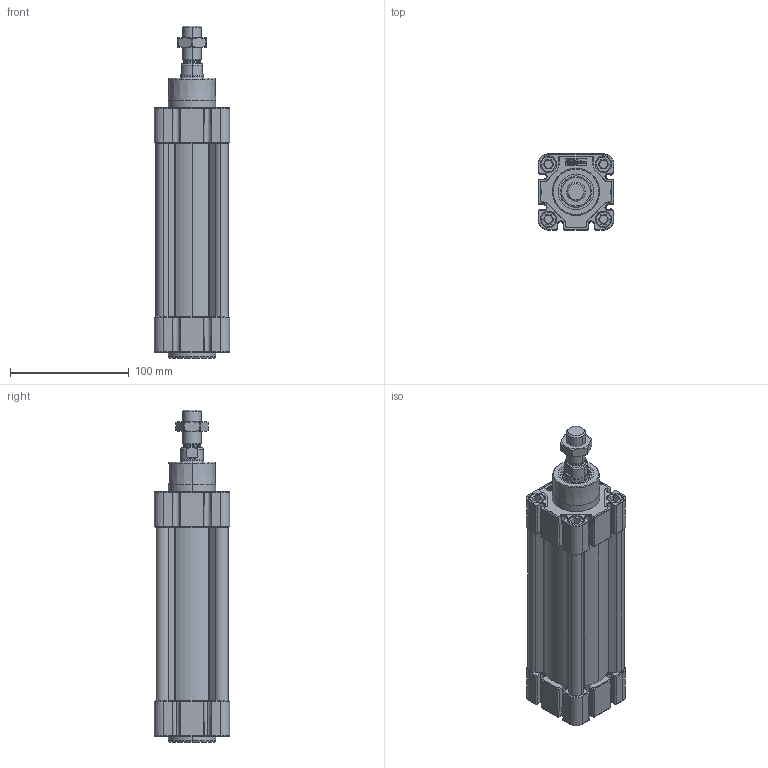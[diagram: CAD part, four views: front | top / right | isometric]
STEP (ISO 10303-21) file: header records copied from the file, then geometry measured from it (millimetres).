
FILE_DESCRIPTION (( 'STEP AP214' ), '1' );
FILE_NAME ('E11M20500100.STEP', '2021-10-26T13:50:23', ( '' ), ( '' ), 'SwSTEP 2.0', 'SolidWorks 2016', '' );
FILE_SCHEMA (( 'AUTOMOTIVE_DESIGN' ));
Length unit declared in the file: millimetre
Products named in the file (7): 21.C01.0000_21.C01.0100; Pistone Ø50 ISO 15552; E11M20500100; 000.532.7_000.532.0100; TA Ø50 ISO 15552 WEB; 21.752.0; TP Ø50 ISO 15552 WEB
Assembly tree (6 placements, depth 2):
  E11M20500100
    TP Ø50 ISO 15552 WEB
    TA Ø50 ISO 15552 WEB
    Pistone Ø50 ISO 15552
    21.C01.0000_21.C01.0100
    21.752.0
    000.532.7_000.532.0100
Bounding box: 63.95 x 63.97 x 280 mm (x, y, z)
Volume: 464248.1 mm3; surface area: 207148.1 mm2
Topology: 17 solids, 17 shells, 1503 faces, 3781 edges, 2374 vertices
Faces by surface type: plane 624, cylinder 466, cone 306, torus 107
Entity records: 59405 total; most frequent: DIRECTION 8258, CARTESIAN_POINT 8009, ORIENTED_EDGE 7538, EDGE_CURVE 3769, AXIS2_PLACEMENT_3D 3019, VERTEX_POINT 2374, LINE 2220, VECTOR 2220
